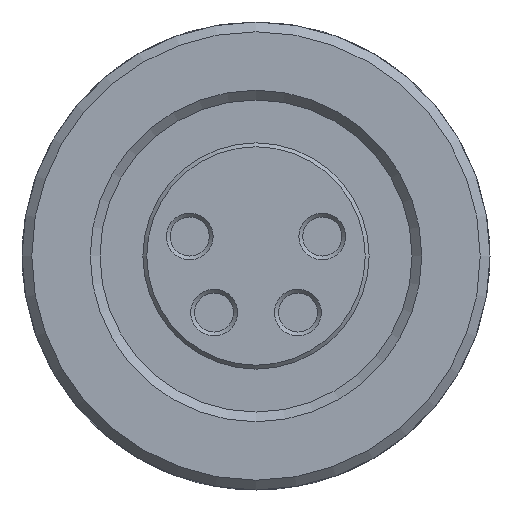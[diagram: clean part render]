
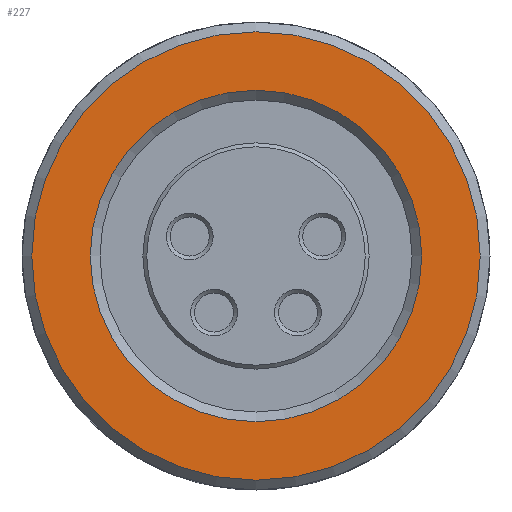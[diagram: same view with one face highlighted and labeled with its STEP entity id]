
A CAD part, front view. The second image highlights one B-rep face of the part: STEP entity #227.
In plain terms, the highlighted planar face has unit normal (0, -1, 0).
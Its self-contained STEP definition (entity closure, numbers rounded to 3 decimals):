
#227 = ADVANCED_FACE( '', ( #505, #506 ), #507, .T. );
#505 = FACE_OUTER_BOUND( '', #836, .T. );
#506 = FACE_BOUND( '', #837, .T. );
#507 = PLANE( '', #838 );
#836 = EDGE_LOOP( '', ( #1414 ) );
#837 = EDGE_LOOP( '', ( #1415 ) );
#838 = AXIS2_PLACEMENT_3D( '', #1416, #1417, #1418 );
#1414 = ORIENTED_EDGE( '', *, *, #1979, .F. );
#1415 = ORIENTED_EDGE( '', *, *, #1770, .T. );
#1416 = CARTESIAN_POINT( '', ( 0., -101.017, 52.57 ) );
#1417 = DIRECTION( '', ( 0., -1., 0. ) );
#1418 = DIRECTION( '', ( 0., 0., -1. ) );
#1770 = EDGE_CURVE( '', #2064, #2064, #2065, .T. );
#1979 = EDGE_CURVE( '', #2394, #2394, #2395, .T. );
#2064 = VERTEX_POINT( '', #2493 );
#2065 = CIRCLE( '', #2494, 4.25 );
#2394 = VERTEX_POINT( '', #3227 );
#2395 = CIRCLE( '', #3228, 5.75 );
#2493 = CARTESIAN_POINT( '', ( 0., -101.017, 51.82 ) );
#2494 = AXIS2_PLACEMENT_3D( '', #3441, #3442, #3443 );
#3227 = CARTESIAN_POINT( '', ( 0., -101.017, 53.32 ) );
#3228 = AXIS2_PLACEMENT_3D( '', #3701, #3702, #3703 );
#3441 = CARTESIAN_POINT( '', ( 0., -101.017, 47.57 ) );
#3442 = DIRECTION( '', ( 0., 1., 0. ) );
#3443 = DIRECTION( '', ( 0., 0., 1. ) );
#3701 = CARTESIAN_POINT( '', ( 0., -101.017, 47.57 ) );
#3702 = DIRECTION( '', ( 0., 1., 0. ) );
#3703 = DIRECTION( '', ( 0., 0., 1. ) );
